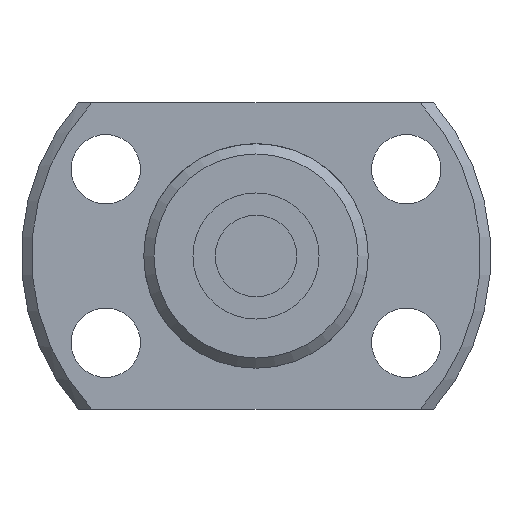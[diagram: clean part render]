
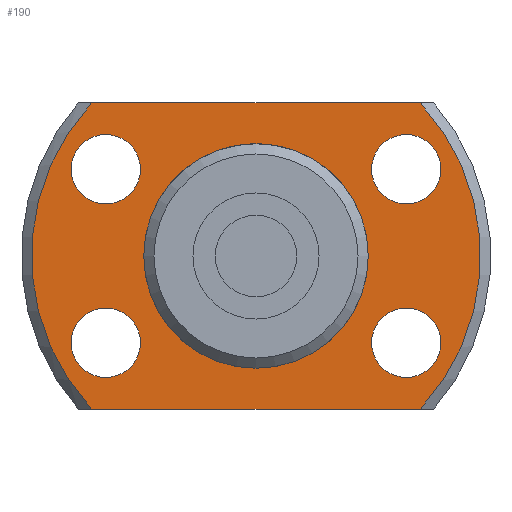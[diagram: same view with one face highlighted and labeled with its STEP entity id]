
A CAD part, left-side view. The second image highlights one B-rep face of the part: STEP entity #190.
In plain terms, the highlighted planar face has unit normal (-1, 0, 0).
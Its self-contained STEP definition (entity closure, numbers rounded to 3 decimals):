
#190 = ADVANCED_FACE( '', ( #377, #378, #379, #380, #381, #382 ), #383, .F. );
#377 = FACE_OUTER_BOUND( '', #559, .T. );
#378 = FACE_BOUND( '', #560, .T. );
#379 = FACE_BOUND( '', #561, .T. );
#380 = FACE_BOUND( '', #562, .T. );
#381 = FACE_BOUND( '', #563, .T. );
#382 = FACE_BOUND( '', #564, .T. );
#383 = PLANE( '', #565 );
#559 = EDGE_LOOP( '', ( #913, #914, #915, #916 ) );
#560 = EDGE_LOOP( '', ( #917 ) );
#561 = EDGE_LOOP( '', ( #918 ) );
#562 = EDGE_LOOP( '', ( #919 ) );
#563 = EDGE_LOOP( '', ( #920 ) );
#564 = EDGE_LOOP( '', ( #921 ) );
#565 = AXIS2_PLACEMENT_3D( '', #922, #923, #924 );
#913 = ORIENTED_EDGE( '', *, *, #1061, .F. );
#914 = ORIENTED_EDGE( '', *, *, #1107, .T. );
#915 = ORIENTED_EDGE( '', *, *, #1081, .F. );
#916 = ORIENTED_EDGE( '', *, *, #1093, .T. );
#917 = ORIENTED_EDGE( '', *, *, #1101, .T. );
#918 = ORIENTED_EDGE( '', *, *, #1098, .T. );
#919 = ORIENTED_EDGE( '', *, *, #1139, .T. );
#920 = ORIENTED_EDGE( '', *, *, #1066, .T. );
#921 = ORIENTED_EDGE( '', *, *, #1020, .T. );
#922 = CARTESIAN_POINT( '', ( 15., 5.3, 0. ) );
#923 = DIRECTION( '', ( 1., 0., 0. ) );
#924 = DIRECTION( '', ( 0., 0., -1. ) );
#1020 = EDGE_CURVE( '', #1187, #1187, #1188, .T. );
#1061 = EDGE_CURVE( '', #1254, #1255, #1256, .T. );
#1066 = EDGE_CURVE( '', #1263, #1263, #1264, .T. );
#1081 = EDGE_CURVE( '', #1286, #1287, #1288, .T. );
#1093 = EDGE_CURVE( '', #1286, #1255, #1304, .T. );
#1098 = EDGE_CURVE( '', #1311, #1311, #1312, .T. );
#1101 = EDGE_CURVE( '', #1316, #1316, #1317, .T. );
#1107 = EDGE_CURVE( '', #1254, #1287, #1326, .T. );
#1139 = EDGE_CURVE( '', #1366, #1366, #1367, .T. );
#1187 = VERTEX_POINT( '', #1423 );
#1188 = CIRCLE( '', #1424, 5.3 );
#1254 = VERTEX_POINT( '', #1530 );
#1255 = VERTEX_POINT( '', #1531 );
#1256 = CIRCLE( '', #1532, 11. );
#1263 = VERTEX_POINT( '', #1545 );
#1264 = CIRCLE( '', #1546, 1.7 );
#1286 = VERTEX_POINT( '', #1575 );
#1287 = VERTEX_POINT( '', #1576 );
#1288 = CIRCLE( '', #1577, 11. );
#1304 = LINE( '', #1604, #1605 );
#1311 = VERTEX_POINT( '', #1617 );
#1312 = CIRCLE( '', #1618, 1.7 );
#1316 = VERTEX_POINT( '', #1622 );
#1317 = CIRCLE( '', #1623, 1.7 );
#1326 = LINE( '', #1633, #1634 );
#1366 = VERTEX_POINT( '', #1684 );
#1367 = CIRCLE( '', #1685, 1.7 );
#1423 = CARTESIAN_POINT( '', ( 15., 0., -5.3 ) );
#1424 = AXIS2_PLACEMENT_3D( '', #1746, #1747, #1748 );
#1530 = CARTESIAN_POINT( '', ( 15., 8.047, -7.5 ) );
#1531 = CARTESIAN_POINT( '', ( 15., 8.047, 7.5 ) );
#1532 = AXIS2_PLACEMENT_3D( '', #1807, #1808, #1809 );
#1545 = CARTESIAN_POINT( '', ( 15., 7.361, 2.55 ) );
#1546 = AXIS2_PLACEMENT_3D( '', #1813, #1814, #1815 );
#1575 = CARTESIAN_POINT( '', ( 15., -8.047, 7.5 ) );
#1576 = CARTESIAN_POINT( '', ( 15., -8.047, -7.5 ) );
#1577 = AXIS2_PLACEMENT_3D( '', #1832, #1833, #1834 );
#1604 = CARTESIAN_POINT( '', ( 15., 5.3, 7.5 ) );
#1605 = VECTOR( '', #1843, 1000. );
#1617 = CARTESIAN_POINT( '', ( 15., -7.361, -5.95 ) );
#1618 = AXIS2_PLACEMENT_3D( '', #1846, #1847, #1848 );
#1622 = CARTESIAN_POINT( '', ( 15., -7.361, 2.55 ) );
#1623 = AXIS2_PLACEMENT_3D( '', #1852, #1853, #1854 );
#1633 = CARTESIAN_POINT( '', ( 15., 5.3, -7.5 ) );
#1634 = VECTOR( '', #1862, 1000. );
#1684 = CARTESIAN_POINT( '', ( 15., 7.361, -5.95 ) );
#1685 = AXIS2_PLACEMENT_3D( '', #1900, #1901, #1902 );
#1746 = CARTESIAN_POINT( '', ( 15., 0., 0. ) );
#1747 = DIRECTION( '', ( 1., 0., 0. ) );
#1748 = DIRECTION( '', ( 0., 0., -1. ) );
#1807 = CARTESIAN_POINT( '', ( 15., 0., 0. ) );
#1808 = DIRECTION( '', ( 1., 0., 0. ) );
#1809 = DIRECTION( '', ( 0., 0., -1. ) );
#1813 = CARTESIAN_POINT( '', ( 15., 7.361, 4.25 ) );
#1814 = DIRECTION( '', ( 1., 0., 0. ) );
#1815 = DIRECTION( '', ( 0., 0., -1. ) );
#1832 = CARTESIAN_POINT( '', ( 15., 0., 0. ) );
#1833 = DIRECTION( '', ( 1., 0., 0. ) );
#1834 = DIRECTION( '', ( 0., 0., -1. ) );
#1843 = DIRECTION( '', ( 0., 1., 0. ) );
#1846 = CARTESIAN_POINT( '', ( 15., -7.361, -4.25 ) );
#1847 = DIRECTION( '', ( 1., 0., 0. ) );
#1848 = DIRECTION( '', ( 0., 0., -1. ) );
#1852 = CARTESIAN_POINT( '', ( 15., -7.361, 4.25 ) );
#1853 = DIRECTION( '', ( 1., 0., 0. ) );
#1854 = DIRECTION( '', ( 0., 0., -1. ) );
#1862 = DIRECTION( '', ( 0., -1., 0. ) );
#1900 = CARTESIAN_POINT( '', ( 15., 7.361, -4.25 ) );
#1901 = DIRECTION( '', ( 1., 0., 0. ) );
#1902 = DIRECTION( '', ( 0., 0., -1. ) );
